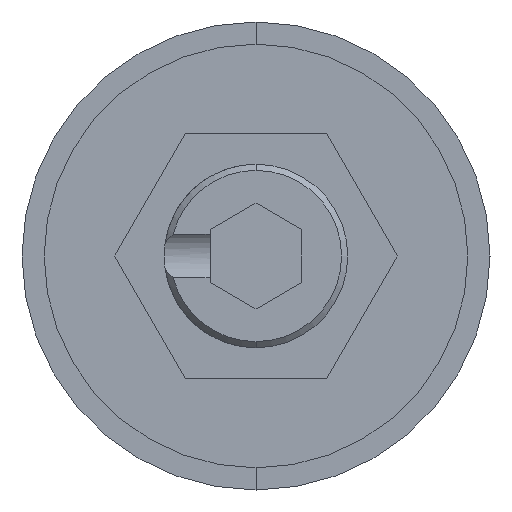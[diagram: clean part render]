
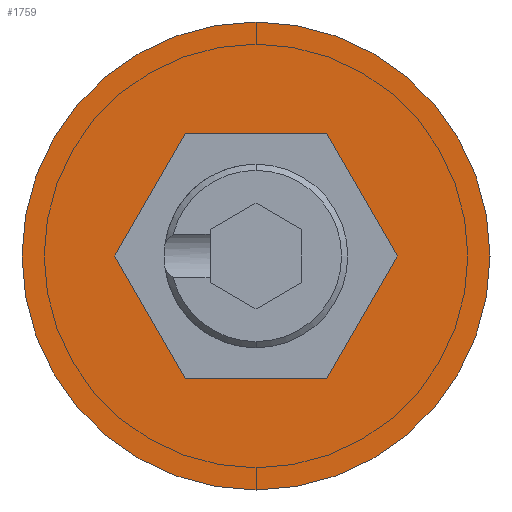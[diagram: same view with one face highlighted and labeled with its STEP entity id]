
A CAD part, front view. The second image highlights one B-rep face of the part: STEP entity #1759.
In plain terms, the highlighted planar face has unit normal (0, -1, 0).
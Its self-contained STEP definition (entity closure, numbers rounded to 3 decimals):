
#24 = VECTOR ( 'NONE', #1568, 1000. ) ;
#65 = CARTESIAN_POINT ( 'NONE',  ( -4.619, 0., 0. ) ) ;
#89 = CIRCLE ( 'NONE', #1441, 7.65 ) ;
#171 = VERTEX_POINT ( 'NONE', #1904 ) ;
#196 = EDGE_CURVE ( 'NONE', #1089, #912, #89, .T. ) ;
#249 = CIRCLE ( 'NONE', #1773, 7.65 ) ;
#346 = LINE ( 'NONE', #939, #1175 ) ;
#380 = EDGE_LOOP ( 'NONE', ( #1725, #909 ) ) ;
#402 = LINE ( 'NONE', #586, #2092 ) ;
#441 = EDGE_LOOP ( 'NONE', ( #727, #1554, #1931, #1453, #1392, #473 ) ) ;
#473 = ORIENTED_EDGE ( 'NONE', *, *, #1238, .F. ) ;
#490 = CARTESIAN_POINT ( 'NONE',  ( 2.309, 0., 4. ) ) ;
#494 = VERTEX_POINT ( 'NONE', #1694 ) ;
#501 = VECTOR ( 'NONE', #1957, 1000. ) ;
#549 = DIRECTION ( 'NONE',  ( 0., 0., -1. ) ) ;
#586 = CARTESIAN_POINT ( 'NONE',  ( 2.309, 0., 4. ) ) ;
#598 = VECTOR ( 'NONE', #2005, 1000. ) ;
#604 = DIRECTION ( 'NONE',  ( 0.5, 0., 0.866 ) ) ;
#651 = LINE ( 'NONE', #1692, #598 ) ;
#652 = CARTESIAN_POINT ( 'NONE',  ( 4.619, 0., 0. ) ) ;
#673 = EDGE_CURVE ( 'NONE', #1841, #1126, #402, .T. ) ;
#683 = FACE_BOUND ( 'NONE', #441, .T. ) ;
#727 = ORIENTED_EDGE ( 'NONE', *, *, #744, .F. ) ;
#744 = EDGE_CURVE ( 'NONE', #171, #494, #1281, .T. ) ;
#759 = DIRECTION ( 'NONE',  ( 0., -1., 0. ) ) ;
#768 = EDGE_CURVE ( 'NONE', #912, #1089, #249, .T. ) ;
#770 = PLANE ( 'NONE',  #1674 ) ;
#778 = DIRECTION ( 'NONE',  ( -1., 0., 0. ) ) ;
#832 = VERTEX_POINT ( 'NONE', #652 ) ;
#909 = ORIENTED_EDGE ( 'NONE', *, *, #768, .T. ) ;
#912 = VERTEX_POINT ( 'NONE', #2096 ) ;
#939 = CARTESIAN_POINT ( 'NONE',  ( 2.309, 0., -4. ) ) ;
#1017 = CARTESIAN_POINT ( 'NONE',  ( 4.619, 0., 0. ) ) ;
#1055 = EDGE_CURVE ( 'NONE', #2070, #171, #651, .T. ) ;
#1089 = VERTEX_POINT ( 'NONE', #1681 ) ;
#1126 = VERTEX_POINT ( 'NONE', #2060 ) ;
#1175 = VECTOR ( 'NONE', #604, 1000. ) ;
#1238 = EDGE_CURVE ( 'NONE', #494, #832, #346, .T. ) ;
#1241 = DIRECTION ( 'NONE',  ( 0., -1., 0. ) ) ;
#1260 = CARTESIAN_POINT ( 'NONE',  ( 0., 0., 0. ) ) ;
#1277 = VECTOR ( 'NONE', #1363, 1000. ) ;
#1281 = LINE ( 'NONE', #1478, #24 ) ;
#1322 = LINE ( 'NONE', #1779, #501 ) ;
#1363 = DIRECTION ( 'NONE',  ( -0.5, 0., 0.866 ) ) ;
#1392 = ORIENTED_EDGE ( 'NONE', *, *, #1643, .F. ) ;
#1441 = AXIS2_PLACEMENT_3D ( 'NONE', #2111, #759, #549 ) ;
#1453 = ORIENTED_EDGE ( 'NONE', *, *, #673, .F. ) ;
#1478 = CARTESIAN_POINT ( 'NONE',  ( -2.309, 0., -4. ) ) ;
#1510 = FACE_OUTER_BOUND ( 'NONE', #380, .T. ) ;
#1554 = ORIENTED_EDGE ( 'NONE', *, *, #1055, .F. ) ;
#1568 = DIRECTION ( 'NONE',  ( 1., 0., 0. ) ) ;
#1591 = DIRECTION ( 'NONE',  ( 0., 0., -1. ) ) ;
#1630 = EDGE_CURVE ( 'NONE', #1126, #2070, #1322, .T. ) ;
#1643 = EDGE_CURVE ( 'NONE', #832, #1841, #1706, .T. ) ;
#1674 = AXIS2_PLACEMENT_3D ( 'NONE', #1260, #1241, #1591 ) ;
#1681 = CARTESIAN_POINT ( 'NONE',  ( 0., 0., -7.65 ) ) ;
#1692 = CARTESIAN_POINT ( 'NONE',  ( -4.619, 0., 0. ) ) ;
#1694 = CARTESIAN_POINT ( 'NONE',  ( 2.309, 0., -4. ) ) ;
#1706 = LINE ( 'NONE', #1017, #1277 ) ;
#1725 = ORIENTED_EDGE ( 'NONE', *, *, #196, .T. ) ;
#1759 = ADVANCED_FACE ( 'NONE', ( #683, #1510 ), #770, .T. ) ;
#1773 = AXIS2_PLACEMENT_3D ( 'NONE', #1913, #1924, #1942 ) ;
#1779 = CARTESIAN_POINT ( 'NONE',  ( -2.309, 0., 4. ) ) ;
#1841 = VERTEX_POINT ( 'NONE', #490 ) ;
#1904 = CARTESIAN_POINT ( 'NONE',  ( -2.309, 0., -4. ) ) ;
#1913 = CARTESIAN_POINT ( 'NONE',  ( 0., 0., 0. ) ) ;
#1924 = DIRECTION ( 'NONE',  ( 0., -1., 0. ) ) ;
#1931 = ORIENTED_EDGE ( 'NONE', *, *, #1630, .F. ) ;
#1942 = DIRECTION ( 'NONE',  ( 0., 0., -1. ) ) ;
#1957 = DIRECTION ( 'NONE',  ( -0.5, 0., -0.866 ) ) ;
#2005 = DIRECTION ( 'NONE',  ( 0.5, 0., -0.866 ) ) ;
#2060 = CARTESIAN_POINT ( 'NONE',  ( -2.309, 0., 4. ) ) ;
#2070 = VERTEX_POINT ( 'NONE', #65 ) ;
#2092 = VECTOR ( 'NONE', #778, 1000. ) ;
#2096 = CARTESIAN_POINT ( 'NONE',  ( 0., 0., 7.65 ) ) ;
#2111 = CARTESIAN_POINT ( 'NONE',  ( 0., 0., 0. ) ) ;
